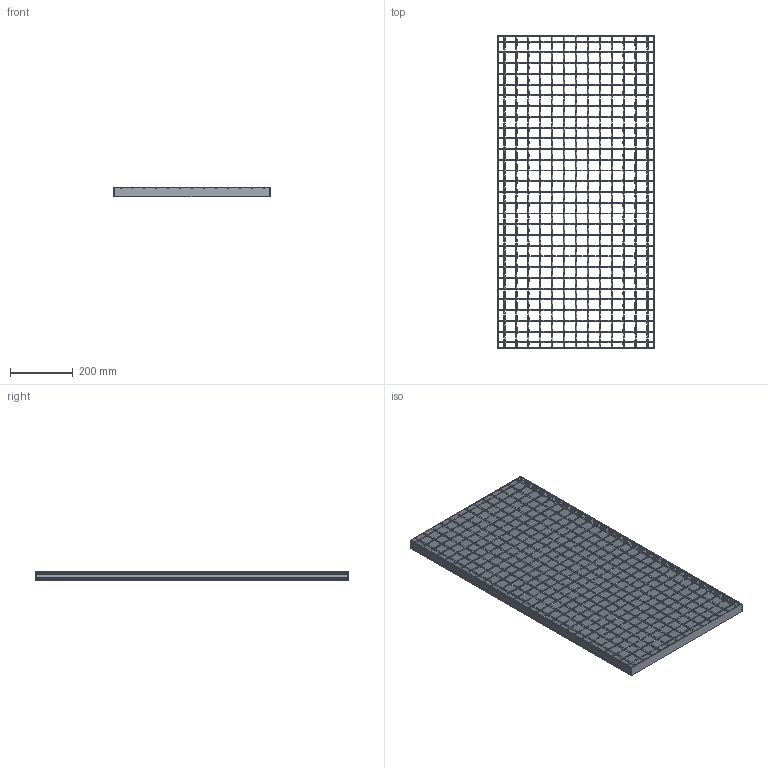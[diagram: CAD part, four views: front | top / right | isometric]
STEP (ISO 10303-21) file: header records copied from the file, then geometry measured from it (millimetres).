
FILE_DESCRIPTION(/* description */ ('STEP AP242','CAx-IF Rec.Pracs.---Representation and Presentation of Product Manufacturing Information (PMI)---4.0---2014-10-13','CAx-IF Rec.Pracs.---3D Tessellated Geometry---0.4---2014-09-14','2;1'),/* implementation_level */ '2;1');
FILE_NAME(/* name */ 'Lichtgitter_Forge_welded_gratings SP 330-34_38-3-1-1-500-1000_(350_1_0)',/* time_stamp */ '2026-04-23T13:48:50+02:00',/* author */ ('License CC BY-ND 4.0'),/* organization */ ('CADENAS'),/* preprocessor_version */ 'ST-DEVELOPER v20',/* originating_system */ 'PARTsolutions',/* authorisation */ ' ');
FILE_SCHEMA (('AP242_MANAGED_MODEL_BASED_3D_ENGINEERING_MIM_LF { 1 0 10303 442 1 1 4 }'));
Length unit declared in the file: millimetre
Products named in the file (5): Lichtgitter_Forge_welded_gratings SP 330-34/38-3-1-1-500-1000_(350_1_
0); Lichtgitter SP 330-34/38-3_(350_1_2_500_1000_Schweisspressroste)_VERT
ICAL_SIDES; Lichtgitter SP 330-34/38-3_(350_1_2_500_1000_Schweisspressroste)_HORI
ZONTAL_C; Lichtgitter SP 330-34/38-3_(350_1_2_500_1000_Schweisspressroste)_HORI
ZONTAL_SIDES; Lichtgitter SP 3.46530-34/38-3.465_(350_1_2_500_1000_Schweisspressros
te)_VERTICAL_C
Assembly tree (46 placements, depth 2):
  Lichtgitter_Forge_welded_gratings SP 330-34/38-3-1-1-500-1000_(350_1_
0)
    Lichtgitter SP 330-34/38-3_(350_1_2_500_1000_Schweisspressroste)_VERT
ICAL_SIDES  x2
    Lichtgitter SP 330-34/38-3_(350_1_2_500_1000_Schweisspressroste)_HORI
ZONTAL_C  x29
    Lichtgitter SP 330-34/38-3_(350_1_2_500_1000_Schweisspressroste)_HORI
ZONTAL_SIDES  x2
    Lichtgitter SP 3.46530-34/38-3.465_(350_1_2_500_1000_Schweisspressros
te)_VERTICAL_C  x13
Bounding box: 500 x 1000 x 30.72 mm (x, y, z)
Volume: 1674807.9 mm3; surface area: 1320442.9 mm2
Topology: 46 solids, 46 shells, 3602 faces, 7982 edges, 4472 vertices
Faces by surface type: bspline 2600, plane 609, cylinder 393
Entity records: 7871 total; most frequent: CARTESIAN_POINT 2575, ORIENTED_EDGE 1108, DIRECTION 802, EDGE_CURVE 554, LINE 508, VECTOR 508, VERTEX_POINT 304, EDGE_LOOP 258
